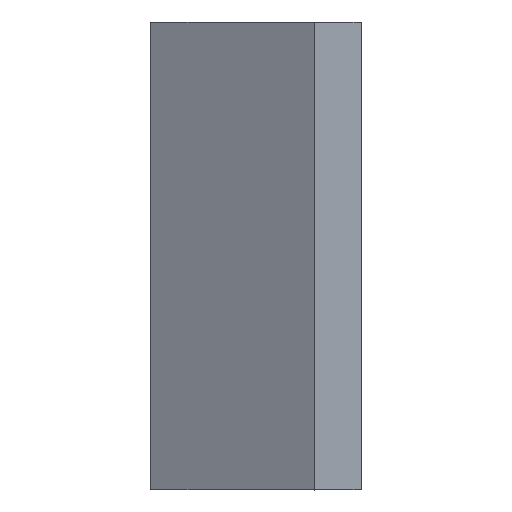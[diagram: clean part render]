
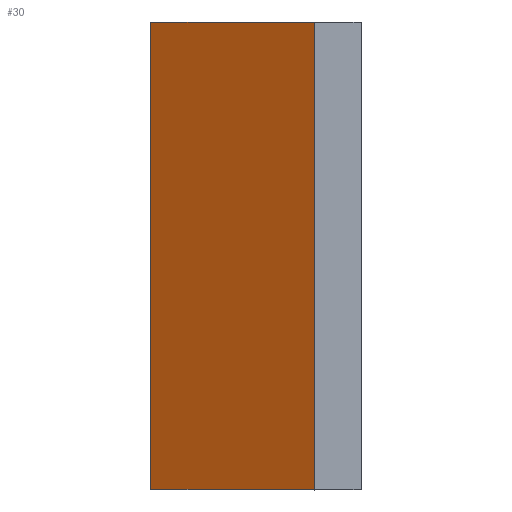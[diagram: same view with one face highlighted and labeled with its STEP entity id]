
A CAD part, top view. The second image highlights one B-rep face of the part: STEP entity #30.
In plain terms, the highlighted planar face has unit normal (-0.496, 0, 0.868) as drawn and (0.496, 0, -0.868) by its records, which use the part's own axes.
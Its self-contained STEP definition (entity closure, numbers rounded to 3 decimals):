
#30=ADVANCED_FACE('',(#42),#420,.T.);
#42=FACE_OUTER_BOUND('',#55,.T.);
#55=EDGE_LOOP('',(#82,#83,#84,#85));
#82=ORIENTED_EDGE('',*,*,#295,.T.);
#83=ORIENTED_EDGE('',*,*,#296,.T.);
#84=ORIENTED_EDGE('',*,*,#297,.T.);
#85=ORIENTED_EDGE('',*,*,#291,.F.);
#143=PCURVE('',#419,#203);
#148=PCURVE('',#420,#208);
#149=PCURVE('',#420,#209);
#150=PCURVE('',#420,#210);
#151=PCURVE('',#420,#211);
#155=PCURVE('',#421,#215);
#169=PCURVE('',#424,#229);
#178=PCURVE('',#425,#238);
#203=DEFINITIONAL_REPRESENTATION('',(#335),#795);
#208=DEFINITIONAL_REPRESENTATION('',(#342),#795);
#209=DEFINITIONAL_REPRESENTATION('',(#344),#795);
#210=DEFINITIONAL_REPRESENTATION('',(#346),#795);
#211=DEFINITIONAL_REPRESENTATION('',(#347),#795);
#215=DEFINITIONAL_REPRESENTATION('',(#354),#795);
#229=DEFINITIONAL_REPRESENTATION('',(#373),#795);
#238=DEFINITIONAL_REPRESENTATION('',(#382),#795);
#261=SURFACE_CURVE('',#334,(#143,#151),.PCURVE_S1.);
#265=SURFACE_CURVE('',#341,(#148,#169),.PCURVE_S1.);
#266=SURFACE_CURVE('',#343,(#149,#155),.PCURVE_S1.);
#267=SURFACE_CURVE('',#345,(#150,#178),.PCURVE_S1.);
#291=EDGE_CURVE('',#402,#403,#261,.T.);
#295=EDGE_CURVE('',#402,#404,#265,.T.);
#296=EDGE_CURVE('',#404,#405,#266,.T.);
#297=EDGE_CURVE('',#405,#403,#267,.T.);
#334=B_SPLINE_CURVE_WITH_KNOTS('',1,(#583,#584),.UNSPECIFIED.,.F.,.F.,(2,
2),(0.,10.),.UNSPECIFIED.);
#335=B_SPLINE_CURVE_WITH_KNOTS('',1,(#585,#586),.UNSPECIFIED.,.F.,.F.,(2,
2),(0.,10.),.UNSPECIFIED.);
#341=B_SPLINE_CURVE_WITH_KNOTS('',1,(#641,#642),.UNSPECIFIED.,.F.,.F.,(2,
2),(-13.106,-9.),.UNSPECIFIED.);
#342=B_SPLINE_CURVE_WITH_KNOTS('',1,(#643,#644),.UNSPECIFIED.,.F.,.F.,(2,
2),(-13.106,-9.),.UNSPECIFIED.);
#343=B_SPLINE_CURVE_WITH_KNOTS('',1,(#645,#646),.UNSPECIFIED.,.F.,.F.,(2,
2),(0.,10.),.UNSPECIFIED.);
#344=B_SPLINE_CURVE_WITH_KNOTS('',1,(#647,#648),.UNSPECIFIED.,.F.,.F.,(2,
2),(0.,10.),.UNSPECIFIED.);
#345=B_SPLINE_CURVE_WITH_KNOTS('',1,(#649,#650),.UNSPECIFIED.,.F.,.F.,(2,
2),(9.,13.106),.UNSPECIFIED.);
#346=B_SPLINE_CURVE_WITH_KNOTS('',1,(#651,#652),.UNSPECIFIED.,.F.,.F.,(2,
2),(9.,13.106),.UNSPECIFIED.);
#347=B_SPLINE_CURVE_WITH_KNOTS('',1,(#653,#654),.UNSPECIFIED.,.F.,.F.,(2,
2),(0.,10.),.UNSPECIFIED.);
#354=B_SPLINE_CURVE_WITH_KNOTS('',1,(#667,#668),.UNSPECIFIED.,.F.,.F.,(2,
2),(0.,10.),.UNSPECIFIED.);
#373=B_SPLINE_CURVE_WITH_KNOTS('',1,(#749,#750),.UNSPECIFIED.,.F.,.F.,(2,
2),(-13.106,-9.),.UNSPECIFIED.);
#382=B_SPLINE_CURVE_WITH_KNOTS('',1,(#767,#768),.UNSPECIFIED.,.F.,.F.,(2,
2),(9.,13.106),.UNSPECIFIED.);
#402=VERTEX_POINT('',#523);
#403=VERTEX_POINT('',#524);
#404=VERTEX_POINT('',#525);
#405=VERTEX_POINT('',#526);
#419=PLANE('',#449);
#420=PLANE('',#450);
#421=PLANE('',#451);
#424=PLANE('',#454);
#425=PLANE('',#455);
#449=AXIS2_PLACEMENT_3D('',#472,#461,$);
#450=AXIS2_PLACEMENT_3D('',#473,#462,$);
#451=AXIS2_PLACEMENT_3D('',#474,#463,$);
#454=AXIS2_PLACEMENT_3D('',#477,#466,$);
#455=AXIS2_PLACEMENT_3D('',#478,#467,$);
#461=DIRECTION('',(1.,0.,0.));
#462=DIRECTION('',(0.496,0.,-0.868));
#463=DIRECTION('',(-1.,0.,0.));
#466=DIRECTION('',(0.,-1.,0.));
#467=DIRECTION('',(0.,1.,0.));
#472=CARTESIAN_POINT('',(-775.5,-520.,27.));
#473=CARTESIAN_POINT('',(-775.5,-520.,33.));
#474=CARTESIAN_POINT('',(-772.,-520.,35.));
#477=CARTESIAN_POINT('',(-776.063,-520.,36.25));
#478=CARTESIAN_POINT('',(-776.063,-530.,36.25));
#523=CARTESIAN_POINT('',(-775.5,-520.,33.));
#524=CARTESIAN_POINT('',(-775.5,-530.,33.));
#525=CARTESIAN_POINT('',(-772.,-520.,35.));
#526=CARTESIAN_POINT('',(-772.,-530.,35.));
#583=CARTESIAN_POINT('',(-775.5,-520.,33.));
#584=CARTESIAN_POINT('',(-775.5,-530.,33.));
#585=CARTESIAN_POINT('',(-13.106,0.));
#586=CARTESIAN_POINT('',(-13.106,10.));
#641=CARTESIAN_POINT('',(-775.5,-520.,33.));
#642=CARTESIAN_POINT('',(-772.,-520.,35.));
#643=CARTESIAN_POINT('',(-13.106,0.));
#644=CARTESIAN_POINT('',(-9.,0.));
#645=CARTESIAN_POINT('',(-772.,-520.,35.));
#646=CARTESIAN_POINT('',(-772.,-530.,35.));
#647=CARTESIAN_POINT('',(-9.,0.));
#648=CARTESIAN_POINT('',(-9.,10.));
#649=CARTESIAN_POINT('',(-772.,-530.,35.));
#650=CARTESIAN_POINT('',(-775.5,-530.,33.));
#651=CARTESIAN_POINT('',(-9.,10.));
#652=CARTESIAN_POINT('',(-13.106,10.));
#653=CARTESIAN_POINT('',(-13.106,0.));
#654=CARTESIAN_POINT('',(-13.106,10.));
#667=CARTESIAN_POINT('',(-9.,0.));
#668=CARTESIAN_POINT('',(-9.,10.));
#749=CARTESIAN_POINT('',(-6.,-4.5));
#750=CARTESIAN_POINT('',(-8.,-1.));
#767=CARTESIAN_POINT('',(-1.,-8.));
#768=CARTESIAN_POINT('',(-4.5,-6.));
#795=(
GEOMETRIC_REPRESENTATION_CONTEXT(2)
PARAMETRIC_REPRESENTATION_CONTEXT()
REPRESENTATION_CONTEXT('pspace','')
);
